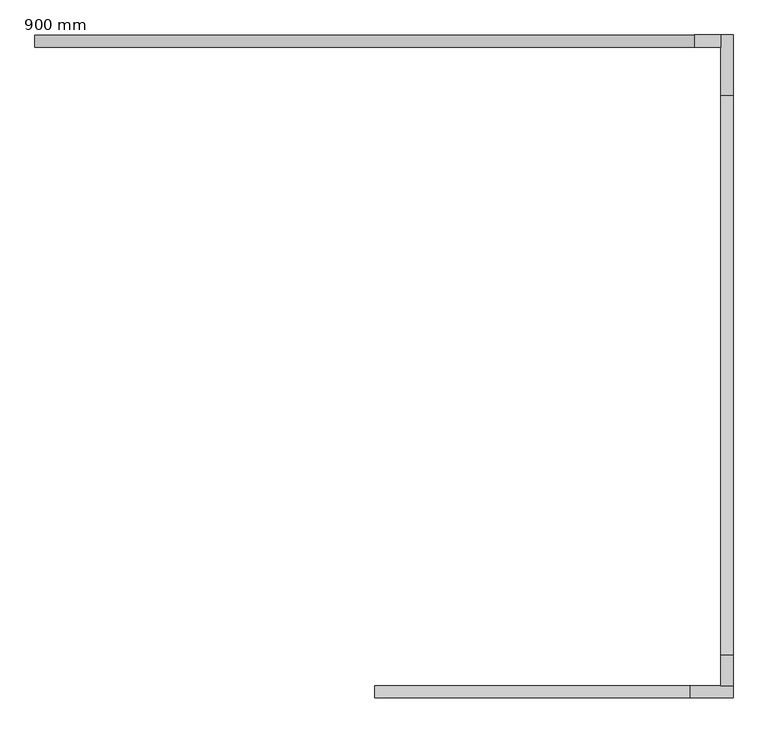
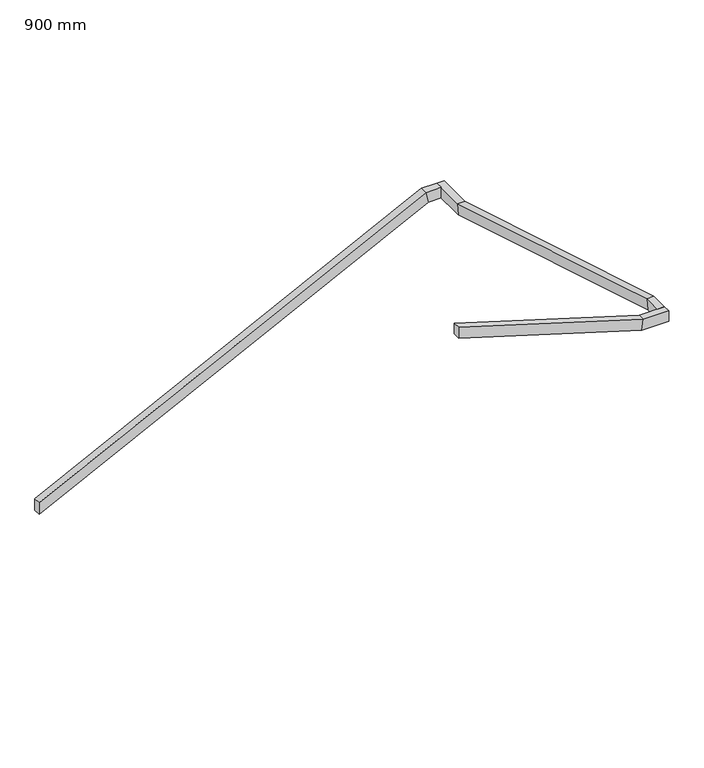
"""IFC4 building model written with IfcOpenShell, lengths in millimetres: railing geometry, 900 mm."""

from ifc_helpers import new_model, si_unit, origin, place, context, project, spatial, faceted_brep, source, transform, mapped, element, save


def railing_900_mm_a600a66a(model_context):
    return source(origin(), model_context, "Body", "Brep", [
        faceted_brep([(-1180.0228675, -934.0888028, 1057.5), (-1180.0228675, -883.2888028, 1057.5), (-1180.0228675, -883.2888028, 972.3641938), (-1180.0228675, -934.0888028, 972.3641938), (1535.3646694, -934.0888028, 2410.5352206), (1535.3646694, -883.2888028, 2410.5352206), (1553.2978144, -883.2888028, 2334.3352206), (1553.2978144, -934.0888028, 2334.3352206), (1644.1771325, -934.0888028, 2410.5352206), (1644.1771325, -934.0888028, 2334.3352206), (1644.1771325, -883.2888028, 2334.3352206), (1644.1771325, -883.2888028, 2410.5352206)], [[[0, 1, 2, 3]], [[1, 0, 4, 5]], [[2, 1, 5, 6]], [[3, 2, 6, 7]], [[0, 3, 7, 4]], [[8, 9, 10, 11]], [[5, 4, 8, 11]], [[6, 5, 11, 10]], [[7, 6, 10, 9]], [[4, 7, 9, 8]]]),
        faceted_brep([(1644.1771325, -883.2888028, 2410.5352206), (1694.9771325, -883.2888028, 2410.5352206), (1694.9771325, -883.2888028, 2334.3352206), (1644.1771325, -883.2888028, 2334.3352206), (1644.1771325, -1131.9082377, 2410.5352206), (1694.9771325, -1131.9082377, 2410.5352206), (1694.9771325, -1143.0776482, 2334.3352206), (1644.1771325, -1143.0776482, 2334.3352206), (1644.1771325, -3434.789564, 3100.4726119), (1694.9771325, -3434.789564, 3100.4726119), (1694.9771325, -3445.9589746, 3024.2726119), (1644.1771325, -3445.9589746, 3024.2726119), (1644.1771325, -3562.6717953, 3100.4726119), (1644.1771325, -3562.6717953, 3024.2726119), (1694.9771325, -3562.6717953, 3024.2726119), (1694.9771325, -3562.6717953, 3100.4726119)], [[[0, 1, 2, 3]], [[1, 0, 4, 5]], [[2, 1, 5, 6]], [[3, 2, 6, 7]], [[0, 3, 7, 4]], [[5, 4, 8, 9]], [[6, 5, 9, 10]], [[7, 6, 10, 11]], [[4, 7, 11, 8]], [[12, 13, 14, 15]], [[9, 8, 12, 15]], [[10, 9, 15, 14]], [[11, 10, 14, 13]], [[8, 11, 13, 12]]]),
        faceted_brep([(1694.9771325, -3562.6717953, 3100.4726119), (1694.9771325, -3613.4717953, 3100.4726119), (1694.9771325, -3613.4717953, 3024.2726119), (1694.9771325, -3562.6717953, 3024.2726119), (1518.4365284, -3562.6717953, 3100.4726119), (1518.4365284, -3613.4717953, 3100.4726119), (1507.1156421, -3613.4717953, 3024.2726119), (1507.1156421, -3562.6717953, 3024.2726119), (219.9771325, -3562.6717953, 3495.0), (219.9771325, -3562.6717953, 3415.3602315), (219.9771325, -3613.4717953, 3415.3602315), (219.9771325, -3613.4717953, 3495.0)], [[[0, 1, 2, 3]], [[1, 0, 4, 5]], [[2, 1, 5, 6]], [[3, 2, 6, 7]], [[0, 3, 7, 4]], [[8, 9, 10, 11]], [[5, 4, 8, 11]], [[6, 5, 11, 10]], [[7, 6, 10, 9]], [[4, 7, 9, 8]]]),
    ])


if __name__ == "__main__":
    model = new_model("IFC4")
    model_context = context("Model", 3, world=origin())
    ifc_project = project(units=[si_unit("LENGTHUNIT", "METRE", prefix="MILLI")], contexts=[model_context])
    site = spatial("IfcSite", under=ifc_project)
    building = spatial("IfcBuilding", under=site)
    placement = place(None, origin())
    railing_900_mm_shape = railing_900_mm_a600a66a(model_context)
    element("IfcRailing", 1, ObjectType="900 mm", at=placement, inside=building, context=model_context, shape_type="MappedRepresentation", body=[
        mapped(railing_900_mm_shape, transform((0.0, 0.0, 0.0), x_axis=(1.0, 0.0, 0.0), y_axis=(0.0, 1.0, 0.0), z_axis=(0.0, 0.0, 1.0))),
    ])
    save(model, "model.ifc")
